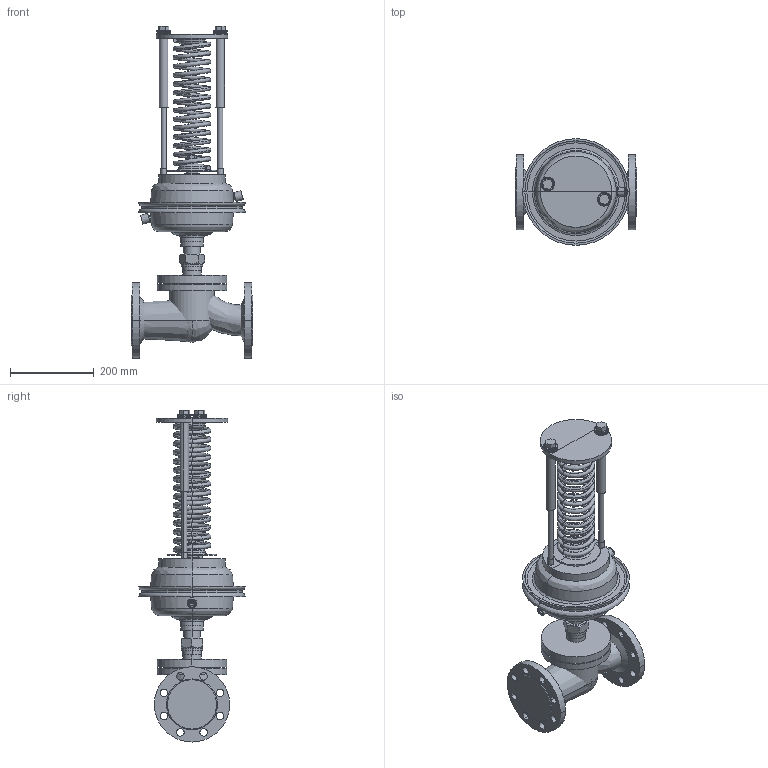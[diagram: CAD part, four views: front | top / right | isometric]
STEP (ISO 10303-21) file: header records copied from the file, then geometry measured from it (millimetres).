
FILE_DESCRIPTION(/* description */ (''),/* implementation_level */ '2;1');
FILE_NAME(/* name */ 'ETM_Регулятордавления_УРРД_НЗ_РД_DN65',/* time_stamp */ '2026-04-18T15:02:16+03:00',/* author */ (''),/* organization */ (''),/* preprocessor_version */ 'ST-DEVELOPER v20',/* originating_system */ '',/* authorisation */ '');
FILE_SCHEMA (('AP242_MANAGED_MODEL_BASED_3D_ENGINEERING_MIM_LF { 1 0 10303 442 1 1 4 }'));
Length unit declared in the file: millimetre
Products named in the file (13): TopLevelAssembly; Выдавливание; Переход; Выдавливание_
1; Переход_1; Переход_2; Переход_3; Объемная геометрия 
присоединена; Выдавливание_
2; Выдавливание_
3; Объемная геометрия 
присоединена_1; Выдавливание_
4; Пружина желтая
Assembly tree (12 placements, depth 2):
  TopLevelAssembly
    Выдавливание
    Переход
    Выдавливание_
1
    Переход_1
    Переход_2
    Переход_3
    Объемная геометрия 
присоединена
    Выдавливание_
2
    Выдавливание_
3
    Объемная геометрия 
присоединена_1
    Выдавливание_
4
    Пружина желтая
Bounding box: 290 x 255.07 x 794.61 mm (x, y, z)
Volume: 9262909.8 mm3; surface area: 973269.6 mm2
Topology: 33 solids, 33 shells, 522 faces, 1078 edges, 560 vertices
Faces by surface type: bspline 191, plane 183, cylinder 138, cone 10
Entity records: 17109 total; most frequent: CARTESIAN_POINT 5911, DIRECTION 2372, ORIENTED_EDGE 2064, EDGE_CURVE 1032, AXIS2_PLACEMENT_3D 1008, CIRCLE 651, VERTEX_POINT 560, EDGE_LOOP 558
